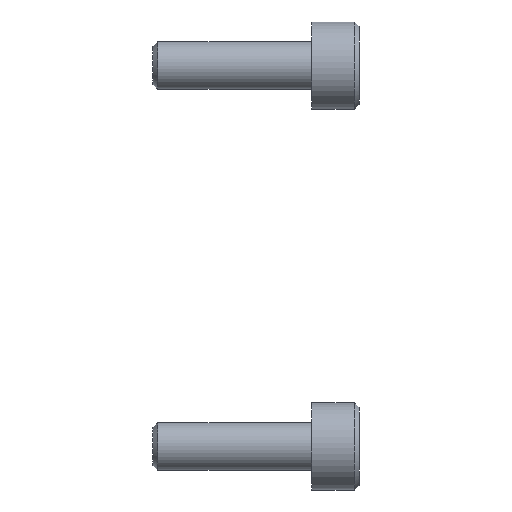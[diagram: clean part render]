
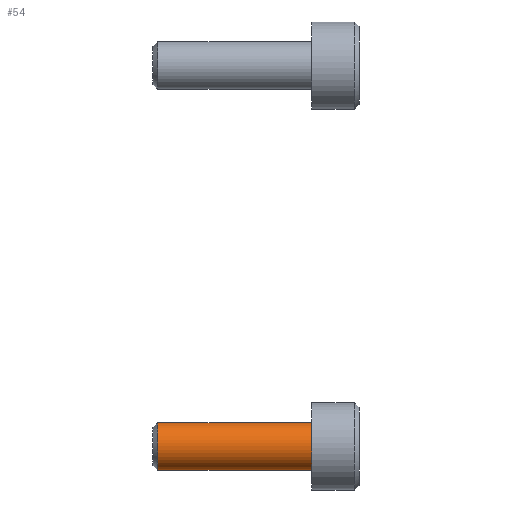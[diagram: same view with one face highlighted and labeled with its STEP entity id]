
A CAD part, front view. The second image highlights one B-rep face of the part: STEP entity #54.
In plain terms, the highlighted free-form (B-spline) face has degree [2, 1] with [9, 2] control points.
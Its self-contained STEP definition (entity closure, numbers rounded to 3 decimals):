
#54=ADVANCED_FACE('',(#79),#760,.T.);
#79=FACE_OUTER_BOUND('',#104,.T.);
#104=EDGE_LOOP('',(#195,#196,#197,#198));
#195=ORIENTED_EDGE('',*,*,#532,.F.);
#196=ORIENTED_EDGE('',*,*,#575,.T.);
#197=ORIENTED_EDGE('',*,*,#534,.F.);
#198=ORIENTED_EDGE('',*,*,#574,.F.);
#244=(
BOUNDED_CURVE()
B_SPLINE_CURVE(2,(#1381,#1382,#1383,#1384,#1385),.UNSPECIFIED.,.F.,.F.)
B_SPLINE_CURVE_WITH_KNOTS((3,2,3),(-4.712,-2.356,0.),
 .UNSPECIFIED.)
CURVE()
GEOMETRIC_REPRESENTATION_ITEM()
RATIONAL_B_SPLINE_CURVE((1.,0.707,1.,0.707,1.))
REPRESENTATION_ITEM('')
);
#245=(
BOUNDED_CURVE()
B_SPLINE_CURVE(2,(#1394,#1395,#1396,#1397,#1398),.UNSPECIFIED.,.F.,.F.)
B_SPLINE_CURVE_WITH_KNOTS((3,2,3),(-4.712,-2.356,0.),
 .UNSPECIFIED.)
CURVE()
GEOMETRIC_REPRESENTATION_ITEM()
RATIONAL_B_SPLINE_CURVE((1.,0.707,1.,0.707,1.))
REPRESENTATION_ITEM('')
);
#249=(
BOUNDED_CURVE()
B_SPLINE_CURVE(2,(#1420,#1421,#1422,#1423,#1424),.UNSPECIFIED.,.F.,.F.)
B_SPLINE_CURVE_WITH_KNOTS((3,2,3),(-4.712,-2.356,0.),
 .UNSPECIFIED.)
CURVE()
GEOMETRIC_REPRESENTATION_ITEM()
RATIONAL_B_SPLINE_CURVE((1.,0.707,1.,0.707,1.))
REPRESENTATION_ITEM('')
);
#263=PCURVE('',#755,#371);
#265=PCURVE('',#755,#373);
#336=PCURVE('',#759,#444);
#339=PCURVE('',#760,#447);
#340=PCURVE('',#760,#448);
#341=PCURVE('',#760,#449);
#342=PCURVE('',#760,#450);
#345=PCURVE('',#751,#453);
#371=DEFINITIONAL_REPRESENTATION('',(#592),#1481);
#373=DEFINITIONAL_REPRESENTATION('',(#595),#1481);
#444=DEFINITIONAL_REPRESENTATION('',(#684),#1481);
#447=DEFINITIONAL_REPRESENTATION('',(#687),#1481);
#448=DEFINITIONAL_REPRESENTATION('',(#688),#1481);
#449=DEFINITIONAL_REPRESENTATION('',(#689),#1481);
#450=DEFINITIONAL_REPRESENTATION('',(#690),#1481);
#453=DEFINITIONAL_REPRESENTATION('',(#249),#1481);
#478=SURFACE_CURVE('',#591,(#263,#339),.PCURVE_S1.);
#480=SURFACE_CURVE('',#594,(#265,#341),.PCURVE_S1.);
#520=SURFACE_CURVE('',#244,(#336,#342),.PCURVE_S1.);
#521=SURFACE_CURVE('',#245,(#340,#345),.PCURVE_S1.);
#532=EDGE_CURVE('',#711,#712,#478,.T.);
#534=EDGE_CURVE('',#713,#714,#480,.T.);
#574=EDGE_CURVE('',#712,#713,#520,.T.);
#575=EDGE_CURVE('',#711,#714,#521,.T.);
#591=B_SPLINE_CURVE_WITH_KNOTS('',1,(#1117,#1118),.UNSPECIFIED.,.F.,.F.,
(2,2),(-9.694,0.),.UNSPECIFIED.);
#592=B_SPLINE_CURVE_WITH_KNOTS('',1,(#1119,#1120),.UNSPECIFIED.,.F.,.F.,
(2,2),(-9.694,0.),.UNSPECIFIED.);
#594=B_SPLINE_CURVE_WITH_KNOTS('',1,(#1128,#1129),.UNSPECIFIED.,.F.,.F.,
(2,2),(-9.694,0.),.UNSPECIFIED.);
#595=B_SPLINE_CURVE_WITH_KNOTS('',1,(#1130,#1131),.UNSPECIFIED.,.F.,.F.,
(2,2),(-9.694,0.),.UNSPECIFIED.);
#684=B_SPLINE_CURVE_WITH_KNOTS('',1,(#1386,#1387),.UNSPECIFIED.,.F.,.F.,
(2,2),(-4.712,0.),.UNSPECIFIED.);
#687=B_SPLINE_CURVE_WITH_KNOTS('',1,(#1392,#1393),.UNSPECIFIED.,.F.,.F.,
(2,2),(-9.694,0.),.UNSPECIFIED.);
#688=B_SPLINE_CURVE_WITH_KNOTS('',1,(#1399,#1400),.UNSPECIFIED.,.F.,.F.,
(2,2),(-4.712,0.),.UNSPECIFIED.);
#689=B_SPLINE_CURVE_WITH_KNOTS('',1,(#1401,#1402),.UNSPECIFIED.,.F.,.F.,
(2,2),(-9.694,0.),.UNSPECIFIED.);
#690=B_SPLINE_CURVE_WITH_KNOTS('',1,(#1403,#1404),.UNSPECIFIED.,.F.,.F.,
(2,2),(-4.712,0.),.UNSPECIFIED.);
#711=VERTEX_POINT('',#1051);
#712=VERTEX_POINT('',#1052);
#713=VERTEX_POINT('',#1053);
#714=VERTEX_POINT('',#1054);
#751=PLANE('',#818);
#755=(
BOUNDED_SURFACE()
B_SPLINE_SURFACE(2,1,((#886,#887),(#888,#889),(#890,#891),(#892,#893),(#894,
#895),(#896,#897),(#898,#899),(#900,#901),(#902,#903)),.UNSPECIFIED.,.T.,
 .F.,.F.)
B_SPLINE_SURFACE_WITH_KNOTS((3,2,2,2,3),(2,2),(0.,1.571,3.142,
4.712,6.283),(0.,11.635),.UNSPECIFIED.)
GEOMETRIC_REPRESENTATION_ITEM()
RATIONAL_B_SPLINE_SURFACE(((1.,1.),(0.707,0.707),
(1.,1.),(0.707,0.707),(1.,1.),(0.707,
0.707),(1.,1.),(0.707,0.707),(1.,1.)))
REPRESENTATION_ITEM('')
SURFACE()
);
#759=(
BOUNDED_SURFACE()
B_SPLINE_SURFACE(2,1,((#971,#972),(#973,#974),(#975,#976),(#977,#978),(#979,
#980),(#981,#982),(#983,#984),(#985,#986),(#987,#988)),.UNSPECIFIED.,.T.,
 .F.,.F.)
B_SPLINE_SURFACE_WITH_KNOTS((3,2,2,2,3),(2,2),(0.,1.571,3.142,
4.712,6.283),(0.,2.335),.UNSPECIFIED.)
GEOMETRIC_REPRESENTATION_ITEM()
RATIONAL_B_SPLINE_SURFACE(((1.,1.),(0.707,0.707),
(1.,1.),(0.707,0.707),(1.,1.),(0.707,
0.707),(1.,1.),(0.707,0.707),(1.,1.)))
REPRESENTATION_ITEM('')
SURFACE()
);
#760=(
BOUNDED_SURFACE()
B_SPLINE_SURFACE(2,1,((#989,#990),(#991,#992),(#993,#994),(#995,#996),(#997,
#998),(#999,#1000),(#1001,#1002),(#1003,#1004),(#1005,#1006)),
 .UNSPECIFIED.,.T.,.F.,.F.)
B_SPLINE_SURFACE_WITH_KNOTS((3,2,2,2,3),(2,2),(0.,1.571,3.142,
4.712,6.283),(0.,11.635),.UNSPECIFIED.)
GEOMETRIC_REPRESENTATION_ITEM()
RATIONAL_B_SPLINE_SURFACE(((1.,1.),(0.707,0.707),
(1.,1.),(0.707,0.707),(1.,1.),(0.707,
0.707),(1.,1.),(0.707,0.707),(1.,1.)))
REPRESENTATION_ITEM('')
SURFACE()
);
#818=AXIS2_PLACEMENT_3D('',#1007,#840,$);
#840=DIRECTION('',(1.,0.,0.));
#886=CARTESIAN_POINT('',(-0.971,1.5,0.));
#887=CARTESIAN_POINT('',(10.664,1.5,0.));
#888=CARTESIAN_POINT('',(-0.971,1.5,1.5));
#889=CARTESIAN_POINT('',(10.664,1.5,1.5));
#890=CARTESIAN_POINT('',(-0.971,0.,1.5));
#891=CARTESIAN_POINT('',(10.664,0.,1.5));
#892=CARTESIAN_POINT('',(-0.971,-1.5,1.5));
#893=CARTESIAN_POINT('',(10.664,-1.5,1.5));
#894=CARTESIAN_POINT('',(-0.971,-1.5,0.));
#895=CARTESIAN_POINT('',(10.664,-1.5,0.));
#896=CARTESIAN_POINT('',(-0.971,-1.5,-1.5));
#897=CARTESIAN_POINT('',(10.664,-1.5,-1.5));
#898=CARTESIAN_POINT('',(-0.971,0.,-1.5));
#899=CARTESIAN_POINT('',(10.664,0.,-1.5));
#900=CARTESIAN_POINT('',(-0.971,1.5,-1.5));
#901=CARTESIAN_POINT('',(10.664,1.5,-1.5));
#902=CARTESIAN_POINT('',(-0.971,1.5,0.));
#903=CARTESIAN_POINT('',(10.664,1.5,0.));
#971=CARTESIAN_POINT('',(11.194,0.,0.));
#972=CARTESIAN_POINT('',(9.542,-1.651,0.));
#973=CARTESIAN_POINT('',(11.194,0.,0.));
#974=CARTESIAN_POINT('',(9.542,-1.651,1.651));
#975=CARTESIAN_POINT('',(11.194,0.,0.));
#976=CARTESIAN_POINT('',(9.542,0.,1.651));
#977=CARTESIAN_POINT('',(11.194,0.,0.));
#978=CARTESIAN_POINT('',(9.542,1.651,1.651));
#979=CARTESIAN_POINT('',(11.194,0.,0.));
#980=CARTESIAN_POINT('',(9.542,1.651,0.));
#981=CARTESIAN_POINT('',(11.194,0.,0.));
#982=CARTESIAN_POINT('',(9.542,1.651,-1.651));
#983=CARTESIAN_POINT('',(11.194,0.,0.));
#984=CARTESIAN_POINT('',(9.542,0.,-1.651));
#985=CARTESIAN_POINT('',(11.194,0.,0.));
#986=CARTESIAN_POINT('',(9.542,-1.651,-1.651));
#987=CARTESIAN_POINT('',(11.194,0.,0.));
#988=CARTESIAN_POINT('',(9.542,-1.651,0.));
#989=CARTESIAN_POINT('',(-0.971,-1.5,0.));
#990=CARTESIAN_POINT('',(10.664,-1.5,0.));
#991=CARTESIAN_POINT('',(-0.971,-1.5,-1.5));
#992=CARTESIAN_POINT('',(10.664,-1.5,-1.5));
#993=CARTESIAN_POINT('',(-0.971,0.,-1.5));
#994=CARTESIAN_POINT('',(10.664,0.,-1.5));
#995=CARTESIAN_POINT('',(-0.971,1.5,-1.5));
#996=CARTESIAN_POINT('',(10.664,1.5,-1.5));
#997=CARTESIAN_POINT('',(-0.971,1.5,0.));
#998=CARTESIAN_POINT('',(10.664,1.5,0.));
#999=CARTESIAN_POINT('',(-0.971,1.5,1.5));
#1000=CARTESIAN_POINT('',(10.664,1.5,1.5));
#1001=CARTESIAN_POINT('',(-0.971,0.,1.5));
#1002=CARTESIAN_POINT('',(10.664,0.,1.5));
#1003=CARTESIAN_POINT('',(-0.971,-1.5,1.5));
#1004=CARTESIAN_POINT('',(10.664,-1.5,1.5));
#1005=CARTESIAN_POINT('',(-0.971,-1.5,0.));
#1006=CARTESIAN_POINT('',(10.664,-1.5,0.));
#1007=CARTESIAN_POINT('',(0.,3.301,-3.301));
#1051=CARTESIAN_POINT('',(0.,0.,-1.5));
#1052=CARTESIAN_POINT('',(9.694,0.,-1.5));
#1053=CARTESIAN_POINT('',(9.694,0.,1.5));
#1054=CARTESIAN_POINT('',(0.,0.,1.5));
#1117=CARTESIAN_POINT('',(0.,0.,-1.5));
#1118=CARTESIAN_POINT('',(9.694,0.,-1.5));
#1119=CARTESIAN_POINT('',(4.712,0.971));
#1120=CARTESIAN_POINT('',(4.712,10.664));
#1128=CARTESIAN_POINT('',(9.694,0.,1.5));
#1129=CARTESIAN_POINT('',(0.,0.,1.5));
#1130=CARTESIAN_POINT('',(1.571,10.664));
#1131=CARTESIAN_POINT('',(1.571,0.971));
#1381=CARTESIAN_POINT('',(9.694,0.,-1.5));
#1382=CARTESIAN_POINT('',(9.694,1.5,-1.5));
#1383=CARTESIAN_POINT('',(9.694,1.5,0.));
#1384=CARTESIAN_POINT('',(9.694,1.5,1.5));
#1385=CARTESIAN_POINT('',(9.694,0.,1.5));
#1386=CARTESIAN_POINT('',(4.712,2.121));
#1387=CARTESIAN_POINT('',(1.571,2.121));
#1392=CARTESIAN_POINT('',(1.571,0.971));
#1393=CARTESIAN_POINT('',(1.571,10.664));
#1394=CARTESIAN_POINT('',(0.,0.,-1.5));
#1395=CARTESIAN_POINT('',(0.,1.5,-1.5));
#1396=CARTESIAN_POINT('',(0.,1.5,0.));
#1397=CARTESIAN_POINT('',(0.,1.5,1.5));
#1398=CARTESIAN_POINT('',(0.,0.,1.5));
#1399=CARTESIAN_POINT('',(1.571,0.971));
#1400=CARTESIAN_POINT('',(4.712,0.971));
#1401=CARTESIAN_POINT('',(4.712,10.664));
#1402=CARTESIAN_POINT('',(4.712,0.971));
#1403=CARTESIAN_POINT('',(1.571,10.664));
#1404=CARTESIAN_POINT('',(4.712,10.664));
#1420=CARTESIAN_POINT('',(0.625,0.));
#1421=CARTESIAN_POINT('',(0.625,-1.5));
#1422=CARTESIAN_POINT('',(2.125,-1.5));
#1423=CARTESIAN_POINT('',(3.625,-1.5));
#1424=CARTESIAN_POINT('',(3.625,0.));
#1481=(
GEOMETRIC_REPRESENTATION_CONTEXT(2)
PARAMETRIC_REPRESENTATION_CONTEXT()
REPRESENTATION_CONTEXT('pspace','')
);
